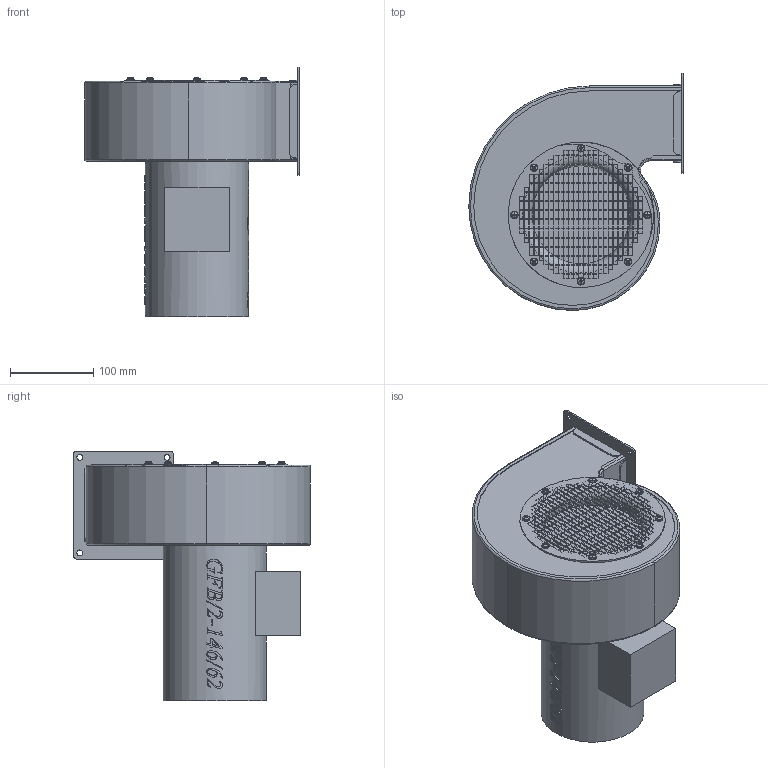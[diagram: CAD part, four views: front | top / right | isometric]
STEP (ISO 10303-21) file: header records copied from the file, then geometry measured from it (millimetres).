
FILE_DESCRIPTION(/* description */ (''),/* implementation_level */ '2;1');
FILE_NAME(/* name */ 'E:\Mariusz\Modele uproszczone\GFB\GFB_2_146_62 LG270 435030100-01\GFB_2_146_62 LG270 435030100-01\GFB_2_146_62 LG270 435030100-01.stp',/* time_stamp */ '2019-01-11T09:36:29+01:00',/* author */ ('M.Janczarek'),/* organization */ (''),/* preprocessor_version */ 'ST-DEVELOPER v16.13',/* originating_system */ 'Autodesk Inventor 2018',/* authorisation */ '');
FILE_SCHEMA (('AUTOMOTIVE_DESIGN { 1 0 10303 214 3 1 1 }'));
Length unit declared in the file: millimetre
Products named in the file (1): GFB_2_146_62 LG270 435030100-01
Bounding box: 258 x 285 x 300.5 mm (x, y, z)
Volume: 7363496.6 mm3; surface area: 329031.6 mm2
Topology: 1 solids, 1 shells, 2136 faces, 6231 edges, 4089 vertices
Faces by surface type: plane 1491, bspline 370, cylinder 112, cone 112, torus 43, sphere 8
Full cylindrical faces by diameter (mm): 7.1 x4, 9 x8, 118 x1, 124 x1, 175 x1
Entity records: 80291 total; most frequent: CARTESIAN_POINT 23904, ORIENTED_EDGE 12296, DIRECTION 9517, EDGE_CURVE 6148, LINE 4421, VECTOR 4421, VERTEX_POINT 4049, EDGE_LOOP 2703
